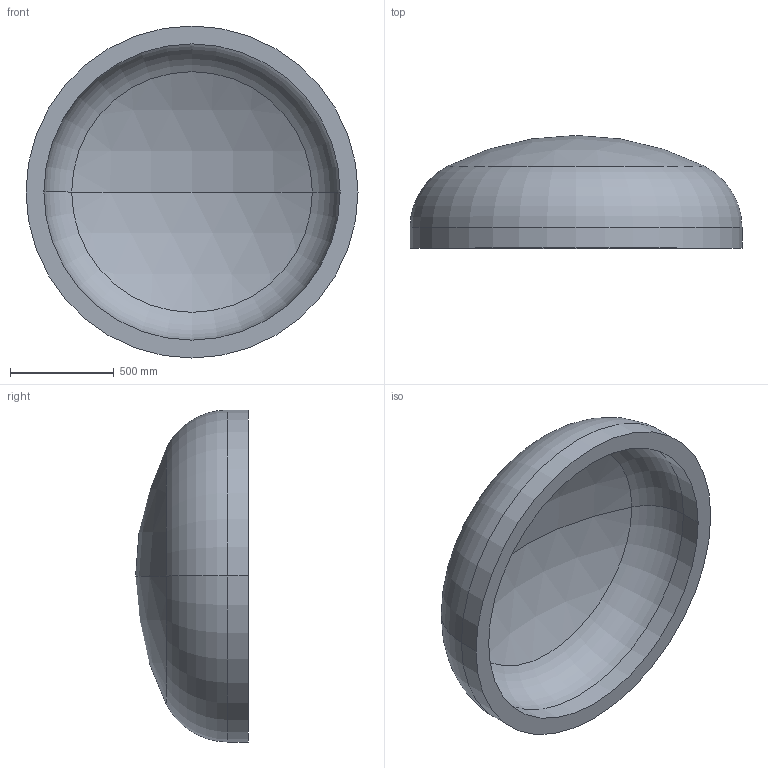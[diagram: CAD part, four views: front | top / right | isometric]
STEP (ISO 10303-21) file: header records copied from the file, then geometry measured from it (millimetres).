
FILE_DESCRIPTION (( 'STEP AP203' ), '1' );
FILE_NAME ('DIN 28013 Korbbogenform_-_Boden DIN 28013 - 1600 x 100 - I - s=86.step', '2016-07-01T11:27:03', ( '' ), ( '' ), 'SwSTEP 2.0', 'SolidWorks 2013', '' );
FILE_SCHEMA (( 'CONFIG_CONTROL_DESIGN' ));
Length unit declared in the file: millimetre
Products named in the file (1): DIN 28013 Korbbogenform_-_Boden DIN 28013 - 1600 x 100 - I - s=86
Bounding box: 1600 x 543.36 x 1600 mm (x, y, z)
Volume: 264190360.2 mm3; surface area: 6568498.4 mm2
Topology: 1 solids, 1 shells, 13 faces, 24 edges, 14 vertices
Faces by surface type: torus 4, cylinder 4, sphere 4, plane 1
Entity records: 407 total; most frequent: DIRECTION 72, CARTESIAN_POINT 52, ORIENTED_EDGE 48, AXIS2_PLACEMENT_3D 34, EDGE_CURVE 24, CIRCLE 20, VERTEX_POINT 14, EDGE_LOOP 14
